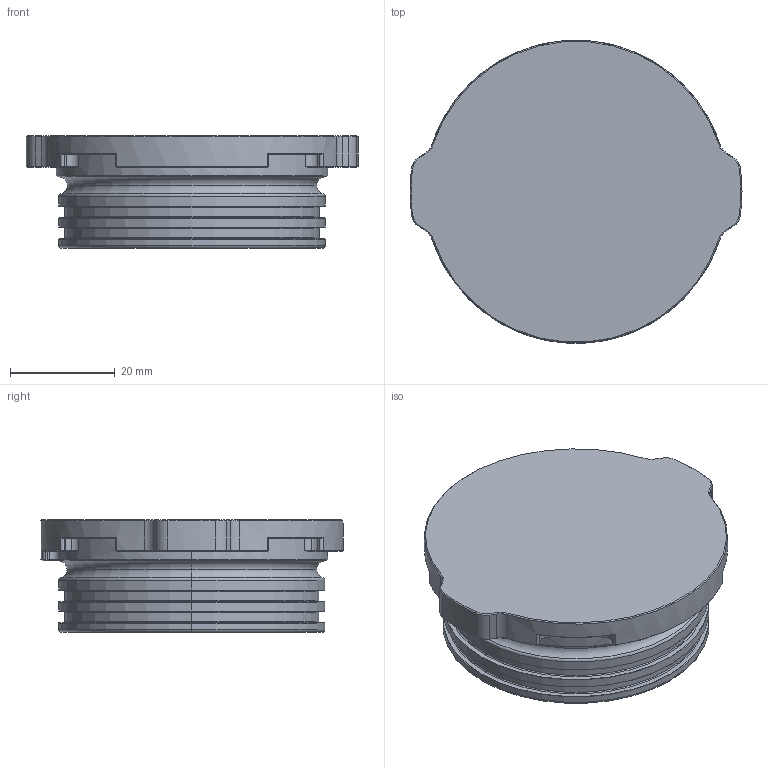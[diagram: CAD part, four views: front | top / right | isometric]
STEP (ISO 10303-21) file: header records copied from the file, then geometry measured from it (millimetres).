
FILE_DESCRIPTION (( 'STEP AP214' ), '1' );
FILE_NAME ('BR-102922-999_Rev_1.step', '2024-12-10T19:34:49', ( '' ), ( '' ), 'SwSTEP 2.0', 'SolidWorks 2024', '' );
FILE_SCHEMA (( 'AUTOMOTIVE_DESIGN' ));
Length unit declared in the file: millimetre
Products named in the file (1): BR-102922-999_Rev_1
Bounding box: 63.5 x 57.94 x 21.5 mm (x, y, z)
Volume: 22656.4 mm3; surface area: 12904.7 mm2
Topology: 1 solids, 1 shells, 523 faces, 1338 edges, 811 vertices
Faces by surface type: cylinder 254, cone 147, plane 69, torus 41, bspline 12
Entity records: 24984 total; most frequent: CARTESIAN_POINT 13173, ORIENTED_EDGE 2628, DIRECTION 2427, EDGE_CURVE 1314, AXIS2_PLACEMENT_3D 947, VERTEX_POINT 811, EDGE_LOOP 541, LINE 533
